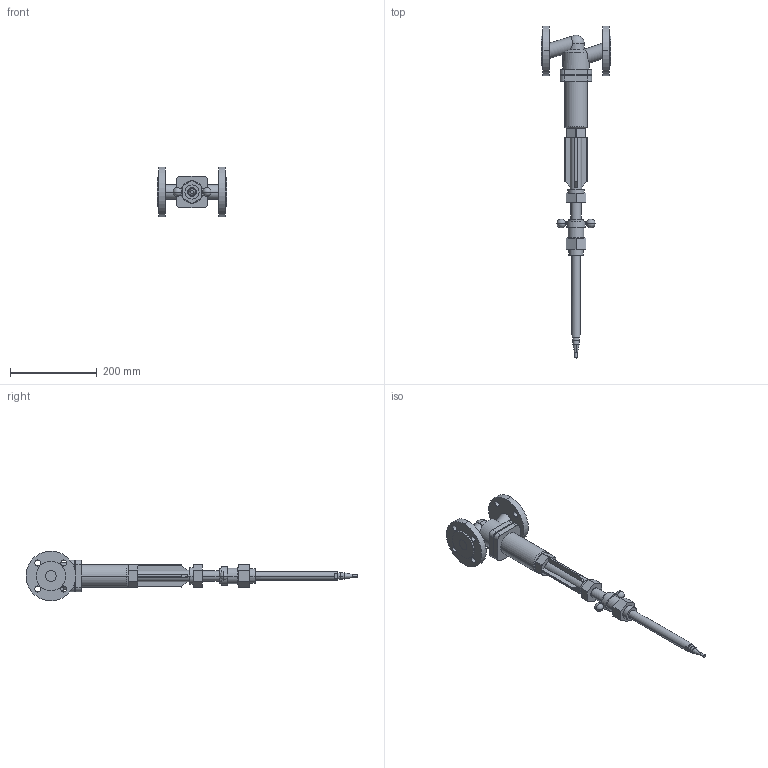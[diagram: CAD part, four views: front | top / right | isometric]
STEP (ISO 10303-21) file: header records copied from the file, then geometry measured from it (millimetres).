
FILE_DESCRIPTION(('CoCreate Modeling STEP Export'),'2;1');
FILE_NAME('c000001250.stp','2011-09-22T11:16:31',(''),(''),'CoCreate Modeling STEP processor for AP214 (Solid Model)','CoCreate Modeling 17.0 01-Apr-2010 (C) Parametric Technology GmbH','');
FILE_SCHEMA(('AUTOMOTIVE_DESIGN { 1 0 10303 214 1 1 1 1 }'));
Length unit declared in the file: millimetre
Products named in the file (1): 1
Bounding box: 160 x 767.05 x 115 mm (x, y, z)
Volume: 1311516.3 mm3; surface area: 179607.6 mm2
Topology: 1 solids, 1 shells, 204 faces, 513 edges, 328 vertices
Faces by surface type: plane 92, cylinder 90, sphere 10, cone 10, torus 2
Entity records: 9215 total; most frequent: CARTESIAN_POINT 3044, ORIENTED_EDGE 1006, DIRECTION 843, EDGE_CURVE 503, VERTEX_POINT 328, AXIS2_PLACEMENT_3D 295, VECTOR 253, LINE 253
